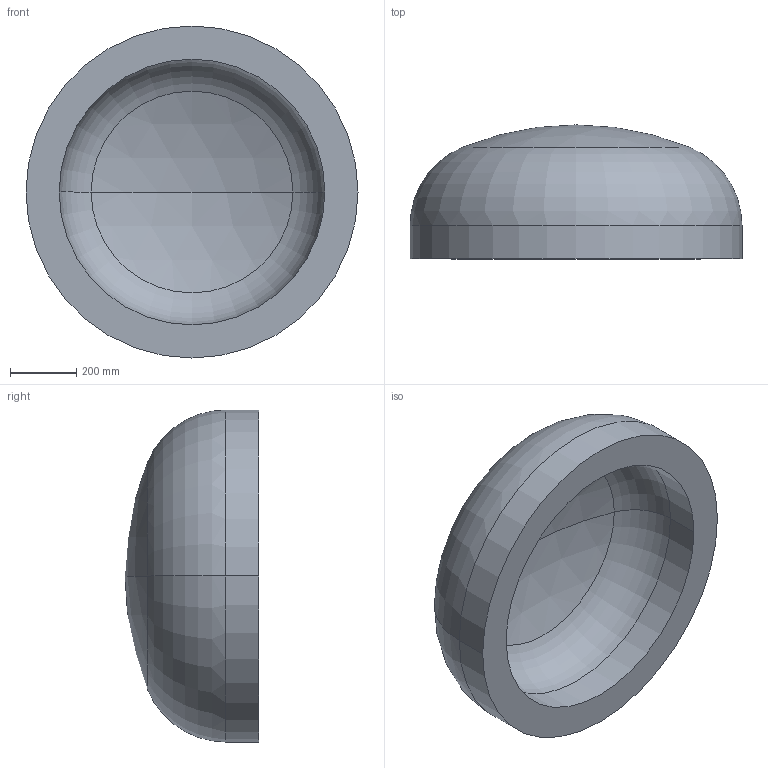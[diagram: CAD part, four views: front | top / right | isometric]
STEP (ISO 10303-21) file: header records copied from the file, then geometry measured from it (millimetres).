
FILE_DESCRIPTION (( 'STEP AP203' ), '1' );
FILE_NAME ('DIN 28013 Korbbogenform_-_Boden DIN 28013 - 1000 x 100 - I - s=100.step', '2016-07-01T08:56:33', ( '' ), ( '' ), 'SwSTEP 2.0', 'SolidWorks 2013', '' );
FILE_SCHEMA (( 'CONFIG_CONTROL_DESIGN' ));
Length unit declared in the file: millimetre
Products named in the file (1): DIN 28013 Korbbogenform_-_Boden DIN 28013 - 1000 x 100 - I - s=100
Bounding box: 1000 x 403.34 x 1000 mm (x, y, z)
Volume: 124522639.6 mm3; surface area: 2794139.7 mm2
Topology: 1 solids, 1 shells, 13 faces, 24 edges, 14 vertices
Faces by surface type: torus 4, cylinder 4, sphere 4, plane 1
Entity records: 407 total; most frequent: DIRECTION 72, CARTESIAN_POINT 52, ORIENTED_EDGE 48, AXIS2_PLACEMENT_3D 34, EDGE_CURVE 24, CIRCLE 20, EDGE_LOOP 14, VERTEX_POINT 14
